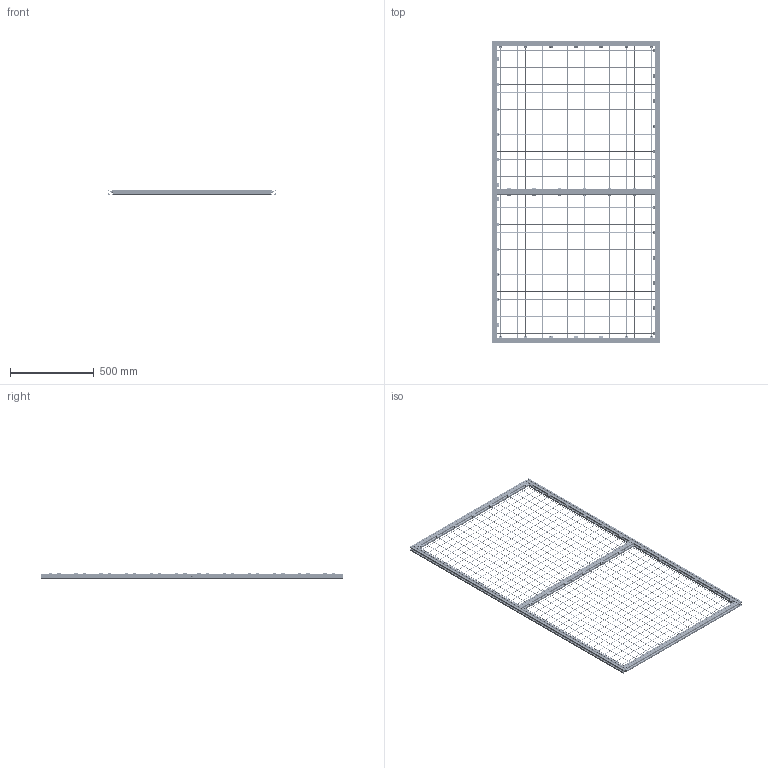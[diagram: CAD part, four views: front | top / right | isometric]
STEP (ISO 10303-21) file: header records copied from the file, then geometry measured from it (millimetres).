
FILE_DESCRIPTION (( 'STEP AP214' ), '1' );
FILE_NAME ('RSI12008-1.STEP', '2021-03-11T06:18:21', ( 'Home' ), ( '' ), 'SwSTEP 2.0', 'SolidWorks 2020', '' );
FILE_SCHEMA (( 'AUTOMOTIVE_DESIGN' ));
Length unit declared in the file: millimetre
Products named in the file (10): 砎麔_L=875 洵; 7225; RSI12008-1; OB-3030 Ïðîôèëü 30õ30 ìì, ïàç 8 ìì (Àíîäèðîâàííûé)_L=1800 ¬¬; 砎麔_L=1160 洵; Âèíò ïîëóñôåðà ISO 7380_Œ8å16; OB-3030 Ïðîôèëü 30õ30 ìì, ïàç 8 ìì (Àíîäèðîâàííûé)_L=940 ¬¬; Ñåòêà; 913516
Assembly tree (149 placements, depth 3):
  RSI12008-1
    OB-3030 Ïðîôèëü 30õ30 ìì, ïàç 8 ìì (Àíîäèðîâàííûé)_L=1800 ¬¬
    OB-3030 Ïðîôèëü 30õ30 ìì, ïàç 8 ìì (Àíîäèðîâàííûé)_L=1800 ¬¬
    OB-3030 Ïðîôèëü 30õ30 ìì, ïàç 8 ìì (Àíîäèðîâàííûé)_L=940 ¬¬  x3
    Ñåòêà  x2
      砎麔_L=875 洵
      砎麔_L=1160 洵
    7225  x50
    Âèíò ïîëóñôåðà ISO 7380_Œ8å16  x6
    913516  x50
Bounding box: 1000 x 1800 x 30.73 mm (x, y, z)
Volume: 2427433.4 mm3; surface area: 2970316.6 mm2
Topology: 733 solids, 733 shells, 16599 faces, 40745 edges, 24338 vertices
Faces by surface type: plane 6342, cylinder 5659, bspline 2450, sphere 1162, torus 762, cone 224
Entity records: 35041 total; most frequent: CARTESIAN_POINT 11963, ORIENTED_EDGE 4608, DIRECTION 4132, EDGE_CURVE 2304, LINE 1534, VECTOR 1534, VERTEX_POINT 1480, AXIS2_PLACEMENT_3D 1299
